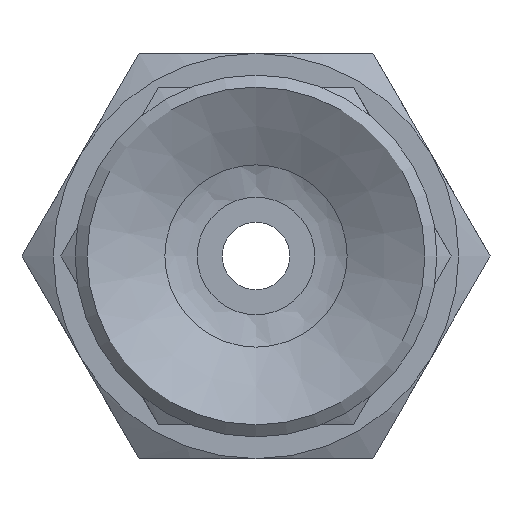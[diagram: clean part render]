
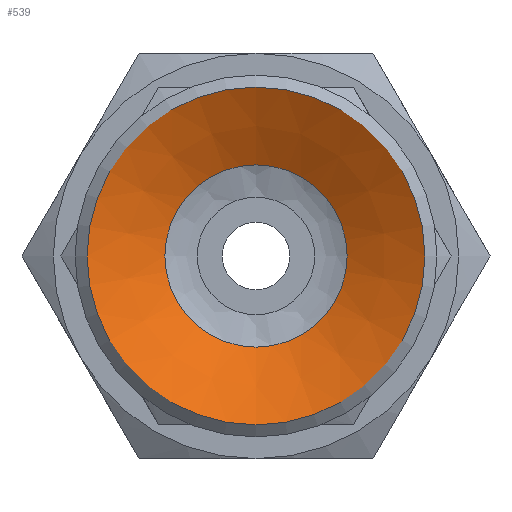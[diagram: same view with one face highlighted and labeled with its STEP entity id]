
A CAD part, front view. The second image highlights one B-rep face of the part: STEP entity #539.
In plain terms, the highlighted conical face has half-angle 61.39 degrees and reference radius 2.25 mm.
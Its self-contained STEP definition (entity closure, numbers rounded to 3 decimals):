
#539=ADVANCED_FACE('',(#777,#778),#779,.F.);
#777=FACE_BOUND('',#1056,.T.);
#778=FACE_OUTER_BOUND('',#1057,.T.);
#779=CONICAL_SURFACE('',#1058,2.25,1.071);
#1056=EDGE_LOOP('',(#1686));
#1057=EDGE_LOOP('',(#1687));
#1058=AXIS2_PLACEMENT_3D('',#1688,#1689,#1690);
#1686=ORIENTED_EDGE('',*,*,#1969,.T.);
#1687=ORIENTED_EDGE('',*,*,#1962,.T.);
#1688=CARTESIAN_POINT('',(0.0,1.5,0.0));
#1689=DIRECTION('',(-0.0,-1.0,0.));
#1690=DIRECTION('',(0.0,0.,-1.0));
#1962=EDGE_CURVE('',#2233,#2233,#2234,.T.);
#1969=EDGE_CURVE('',#2247,#2247,#2248,.T.);
#2233=VERTEX_POINT('',#2845);
#2234=CIRCLE('',#2846,5.);
#2247=VERTEX_POINT('',#2859);
#2248=CIRCLE('',#2860,2.698);
#2845=CARTESIAN_POINT('',(0.0,0.,-5.));
#2846=AXIS2_PLACEMENT_3D('',#3154,#3155,#3156);
#2859=CARTESIAN_POINT('',(0.0,1.256,-2.698));
#2860=AXIS2_PLACEMENT_3D('',#3175,#3176,#3177);
#3154=CARTESIAN_POINT('',(0.0,0.0,0.0));
#3155=DIRECTION('',(0.0,-1.0,0.));
#3156=DIRECTION('',(0.0,0.,-1.0));
#3175=CARTESIAN_POINT('',(0.0,1.256,0.0));
#3176=DIRECTION('',(0.0,1.0,0.));
#3177=DIRECTION('',(0.0,0.,-1.0));
